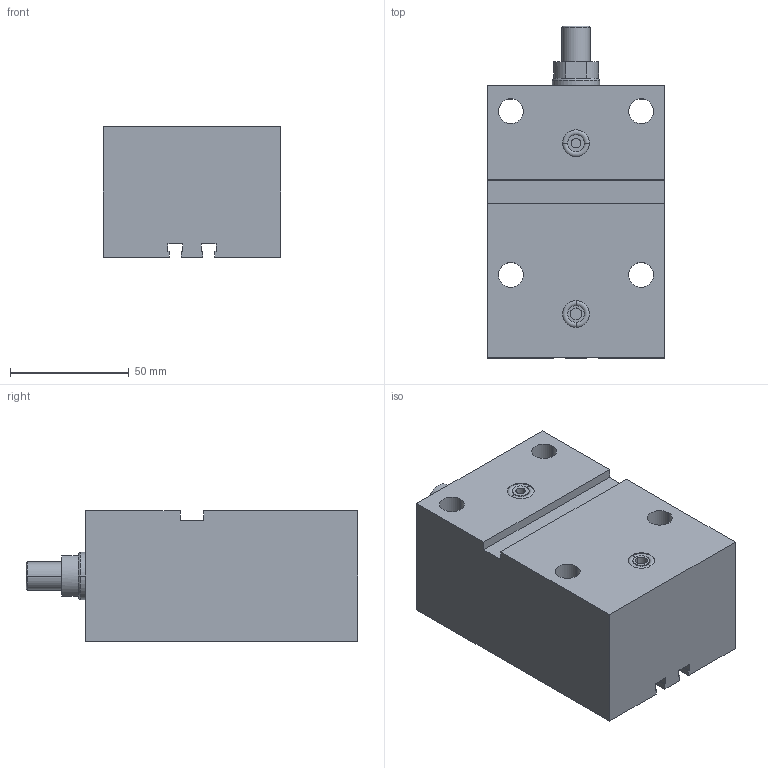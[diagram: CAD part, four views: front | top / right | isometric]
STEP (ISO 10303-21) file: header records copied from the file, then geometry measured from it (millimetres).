
FILE_DESCRIPTION (( 'STEP AP203' ), '1' );
FILE_NAME ('GERMA_Blockzylinder_703-032-050-A.STEP', '2016-07-23T08:44:41', ( '' ), ( '' ), 'SwSTEP 2.0', 'SolidWorks 2015', '' );
FILE_SCHEMA (( 'CONFIG_CONTROL_DESIGN' ));
Length unit declared in the file: millimetre
Products named in the file (3): GH-700-032_GH-703-032-050; Kolben_MT 70x-032_Kolben_MT DU.32-Hub50-AG; GERMA_Blockzylinder_703-032-050-A
Assembly tree (2 placements, depth 2):
  GERMA_Blockzylinder_703-032-050-A
    GH-700-032_GH-703-032-050
    Kolben_MT 70x-032_Kolben_MT DU.32-Hub50-AG
Bounding box: 75 x 140 x 55 mm (x, y, z)
Volume: 424364.3 mm3; surface area: 67974.1 mm2
Topology: 2 solids, 2 shells, 100 faces, 232 edges, 145 vertices
Faces by surface type: plane 43, cylinder 41, cone 12, torus 4
Entity records: 3142 total; most frequent: DIRECTION 535, CARTESIAN_POINT 478, ORIENTED_EDGE 456, EDGE_CURVE 228, AXIS2_PLACEMENT_3D 202, VERTEX_POINT 145, VECTOR 131, LINE 131
